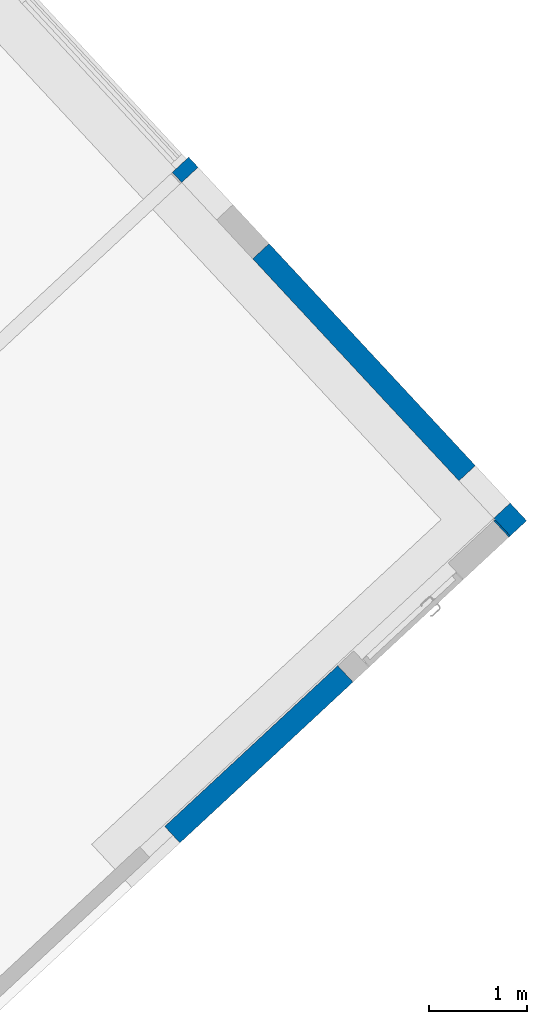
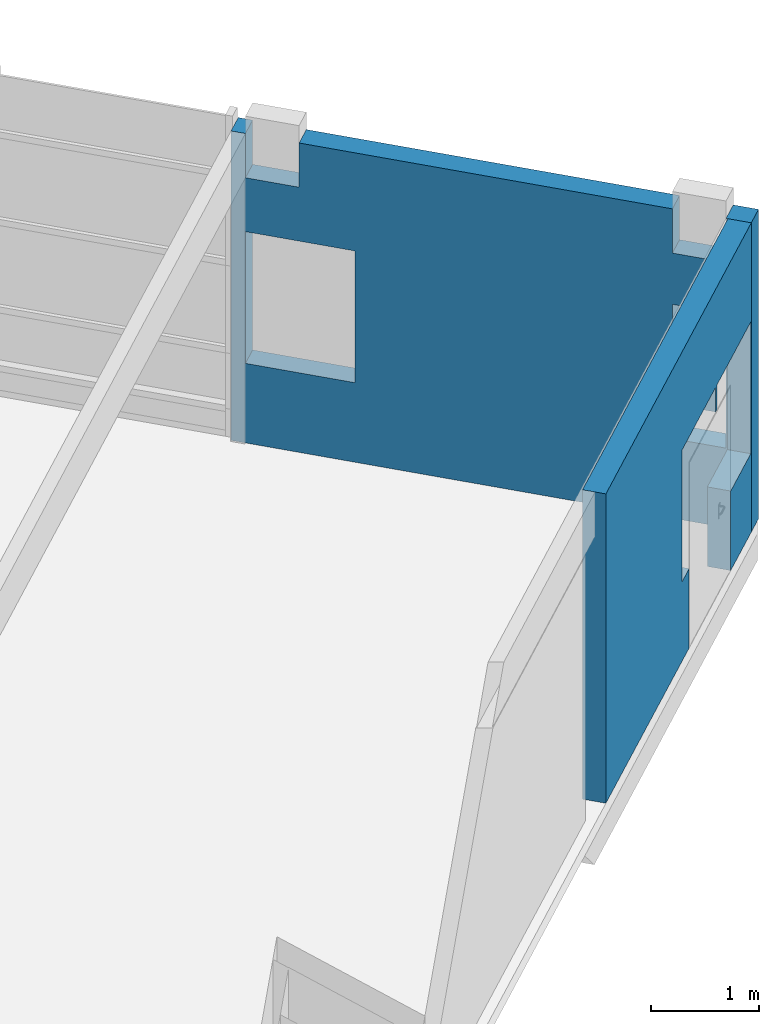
# One storey, part 4 of 7: 2 walls.
"""IFC2X3 building model written with IfcOpenShell, lengths in millimetres."""

from ifc_helpers import new_model, entity, si_unit, converted_unit, derived_unit, direction, frame, origin, origin_with_axes, place, context, subcontext, project, spatial, faceted_brep, material, layer, layer_set, type_object, element, save


model = new_model("IFC2X3")

# Units and contexts
model_context = context("Model", 3, precision=0.01, world=origin(), true_north=direction((6.12323399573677e-17, 1.0)))
plan_context = context("Plan", 3, precision=1e-05, world=origin_with_axes())
body_context = subcontext(model_context, "Body", "Model", "MODEL_VIEW")
ifc_project = project(units=[converted_unit("PLANEANGLEUNIT", "DEGREE", entity("IfcPositiveLengthMeasure", 0.0174532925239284), si_unit("PLANEANGLEUNIT", "RADIAN"), dimensions=[0, 0, 0, 0, 0, 0, 0]), si_unit("AREAUNIT", "SQUARE_METRE"), si_unit("LENGTHUNIT", "METRE", prefix="MILLI"), si_unit("MASSUNIT", "GRAM", prefix="KILO"), si_unit("POWERUNIT", "WATT"), si_unit("PRESSUREUNIT", "PASCAL", prefix="KILO"), si_unit("FORCEUNIT", "NEWTON", prefix="KILO"), si_unit("ELECTRICVOLTAGEUNIT", "VOLT"), si_unit("ELECTRICCURRENTUNIT", "AMPERE"), si_unit("THERMODYNAMICTEMPERATUREUNIT", "DEGREE_CELSIUS"), si_unit("TIMEUNIT", "SECOND"), si_unit("VOLUMEUNIT", "CUBIC_METRE"), derived_unit("LINEARVELOCITYUNIT", [(si_unit("LENGTHUNIT", "METRE"), 1), (si_unit("TIMEUNIT", "SECOND"), -1)]), derived_unit("VOLUMETRICFLOWRATEUNIT", [(si_unit("VOLUMEUNIT", "CUBIC_METRE"), 1), (si_unit("TIMEUNIT", "SECOND"), -1)]), derived_unit("THERMALTRANSMITTANCEUNIT", [(si_unit("POWERUNIT", "WATT"), 1), (si_unit("THERMODYNAMICTEMPERATUREUNIT", "KELVIN"), -1), (si_unit("AREAUNIT", "SQUARE_METRE"), -1)]), derived_unit("SOUNDPRESSUREUNIT", [(si_unit("PRESSUREUNIT", "PASCAL"), 1)])], contexts=[model_context, plan_context])

# Site, building, storey
site_placement = place(None, frame((159880.25068742, 140851.808625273, 0.0), z_axis=(0.0, 0.0, 1.0), x_axis=(-0.680735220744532, 0.732529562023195, 0.0)))
site = spatial("IfcSite", under=ifc_project, at=site_placement, Name="Default", CompositionType="ELEMENT")
building_placement = place(site_placement, origin_with_axes())
building = spatial("IfcBuilding", under=site, at=building_placement, CompositionType="ELEMENT")
storey_placement = place(building_placement, frame((0.0, 0.0, 4900.0), z_axis=(0.0, 0.0, 1.0), x_axis=(1.0, 0.0, 0.0)))
storey = spatial("IfcBuildingStorey", under=building, at=storey_placement, Name="001-01", CompositionType="ELEMENT", Elevation=4900.0)

# Walls
ifc_material_1 = material(Name="Vegg - Dobbelfals Stående Kledning - HVIT")
ifc_layer_1 = layer(ifc_material_1, 19.0)
ifc_material_2 = material(Name="Vegg - Utlekting")
ifc_layer_2 = layer(ifc_material_2, 36.0)
ifc_material_3 = material(Name="Vegg - Asfaltplate")
ifc_layer_3 = layer(ifc_material_3, 12.0)
ifc_material_4 = material(Name="Vegg - Konstruksjon Fylt grå")
ifc_layer_4 = layer(ifc_material_4, 148.0)
ifc_material_5 = material(Name="Vegg - Veggplater")
ifc_layer_5 = layer(ifc_material_5, 12.0)
ifc_layer_set = layer_set([ifc_layer_1, ifc_layer_2, ifc_layer_3, ifc_layer_4, ifc_layer_5], Name="Basic Wall:YV 1_ Tre 148 Isolert Stående Kledning")
wall_type = type_object("IfcWallType", Name="Basic Wall:YV 1_ Tre 148 Isolert Stående Kledning", PredefinedType="STANDARD", material=ifc_layer_set)
wall_1_placement = place(storey_placement, frame((67160.0, -61.5000000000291, 0.0), z_axis=(0.0, 0.0, 1.0), x_axis=(-1.0, 0.0, 0.0)))
element("IfcWall", 1, at=wall_1_placement, inside=storey, type_object=wall_type, Name="Basic Wall:YV 1_ Tre 148 Isolert Stående Kledning", ObjectType="Basic Wall:YV 1_ Tre 148 Isolert Stående Kledning", context=body_context, shape_type="Brep", body=[
    faceted_brep([(14289.9999993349, -113.5, 3500.0), (14430.0, -113.5, 3500.0), (14430.0, -113.5, 3000.0), (14950.0, -113.5, 3000.0), (14950.0, -113.5, 3500.0), (18569.9999992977, -113.5, 3500.0), (18569.9999992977, -113.5, 3000.0), (19089.9999992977, -113.5, 3000.0), (19089.9999992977, -113.5, 3500.0), (19335.0, -113.5, 3500.0), (19335.0, -113.5, 0.0), (14290.0, -113.5, 1.13686837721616e-12), (18569.9999992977, -113.5, 900.0), (19089.9999992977, -113.5, 900.0), (19089.9999992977, -113.5, 2420.0), (18569.9999992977, -113.5, 2420.0), (14430.0, -113.5, 899.999999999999), (15490.0, -113.5, 899.999999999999), (15490.0, -113.5, 2390.0), (14430.0, -113.5, 2390.0), (19335.0, 113.5, 3500.0), (19335.0, 113.5, 0.0), (19089.9999992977, 113.5, 3500.0), (19089.9999992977, 113.5, 3000.0), (18569.9999992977, 113.5, 3000.0), (18569.9999992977, 113.5, 3500.0), (14950.0, 113.5, 3500.0), (14950.0, 113.5, 3000.0), (14430.0, 113.5, 3000.0), (14430.0, 113.5, 3500.0), (14289.9999993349, 113.5, 3500.0), (14290.0, 113.5, 1.13686837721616e-12), (19089.9999992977, 113.5, 900.0), (18569.9999992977, 113.5, 900.0), (18569.9999992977, 113.5, 2420.0), (19089.9999992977, 113.5, 2420.0), (15490.0, 113.5, 899.999999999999), (14430.0, 113.5, 899.999999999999), (14430.0, 113.5, 2390.0), (15490.0, 113.5, 2390.0), (14290.0, 113.5, 3500.0), (14290.0, -113.5, 3500.0)], [[[0, 1, 2, 3, 4, 5, 6, 7, 8, 9, 10, 11], [12, 13, 14, 15], [16, 17, 18, 19]], [[9, 20, 21, 10]], [[20, 22, 23, 24, 25, 26, 27, 28, 29, 30, 31, 21], [32, 33, 34, 35], [36, 37, 38, 39]], [[31, 11, 10, 21]], [[40, 41, 11, 31]], [[13, 12, 33, 32]], [[12, 15, 34, 33]], [[15, 14, 35, 34]], [[14, 13, 32, 35]], [[7, 6, 24, 23]], [[5, 25, 24, 6]], [[22, 8, 7, 23]], [[17, 16, 37, 36]], [[16, 19, 38, 37]], [[19, 18, 39, 38]], [[18, 17, 36, 39]], [[3, 2, 28, 27]], [[1, 29, 28, 2]], [[26, 4, 3, 27]], [[30, 29, 1, 0]], [[26, 25, 5, 4]], [[22, 20, 9, 8]]], orient=[[False, False, False], [False], [False, False, False], [False], [False], [False], [False], [False], [False], [False], [False], [False], [False], [False], [False], [False], [False], [False], [False], [False], [False], [False]]),
])
wall_2_placement = place(storey_placement, frame((47938.5, 52.0, 0.0), z_axis=(0.0, 0.0, 1.0), x_axis=(0.0, 1.0, 0.0)))
element("IfcWall", 2, at=wall_2_placement, inside=storey, type_object=wall_type, Name="Basic Wall:YV 1_ Tre 148 Isolert Stående Kledning", ObjectType="Basic Wall:YV 1_ Tre 148 Isolert Stående Kledning", context=body_context, shape_type="Brep", body=[
    faceted_brep([(0.0, 113.5, 3500.0), (0.0, -113.5, 3500.0), (0.0, -113.5, 0.0), (0.0, 113.5, 0.0), (4582.99999999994, -113.5, 3500.0), (4582.99999999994, -113.5, 0.0), (1960.0, -113.499999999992, 0.0), (1960.0, -113.499999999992, 900.000000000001), (2182.0, -113.5, 900.000000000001), (2182.0, -113.5, 2390.0), (1122.0, -113.5, 2390.0), (1122.0, -113.499999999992, 2109.99999999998), (1078.0, -113.499999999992, 2109.99999999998), (1078.0, -113.5, 2390.0), (17.9999999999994, -113.5, 2390.0), (17.9999999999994, -113.5, 899.999999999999), (650.0, -113.499999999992, 899.999999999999), (650.0, -113.499999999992, 0.0), (4582.99999999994, 113.5, 3500.0), (4582.99999999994, 113.5, 0.0), (650.0, 113.500000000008, 0.0), (650.0, 113.500000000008, 899.999999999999), (17.9999999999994, 113.5, 899.999999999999), (17.9999999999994, 113.5, 2390.0), (1078.0, 113.5, 2390.0), (1078.0, 113.500000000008, 2109.99999999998), (1122.0, 113.500000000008, 2109.99999999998), (1122.0, 113.5, 2390.0), (2182.0, 113.5, 2390.0), (2182.0, 113.5, 900.000000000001), (1960.0, 113.500000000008, 900.000000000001), (1960.0, 113.500000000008, 0.0)], [[[0, 1, 2, 3]], [[1, 4, 5, 6, 7, 8, 9, 10, 11, 12, 13, 14, 15, 16, 17, 2]], [[4, 18, 19, 5]], [[18, 0, 3, 20, 21, 22, 23, 24, 25, 26, 27, 28, 29, 30, 31, 19]], [[31, 6, 5, 19]], [[17, 20, 3, 2]], [[20, 17, 16, 21]], [[25, 12, 11, 26]], [[6, 31, 30, 7]], [[16, 15, 22, 21]], [[15, 14, 23, 22]], [[14, 13, 24, 23]], [[25, 24, 13, 12]], [[30, 29, 8, 7]], [[11, 10, 27, 26]], [[10, 9, 28, 27]], [[9, 8, 29, 28]], [[18, 4, 1, 0]]], orient=[[False], [False], [False], [False], [False], [False], [False], [False], [False], [False], [False], [False], [False], [False], [False], [False], [False], [False]]),
])

save(model, "model.ifc")
